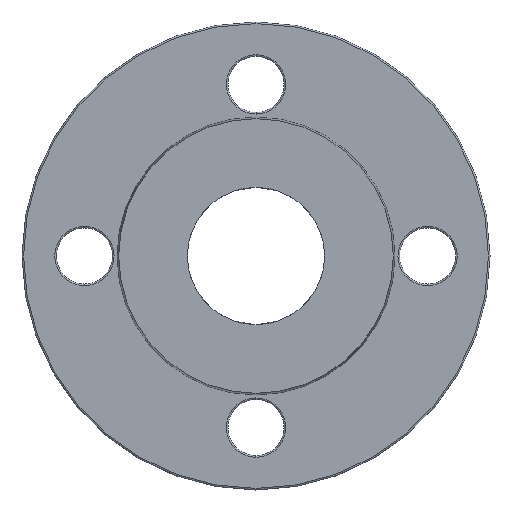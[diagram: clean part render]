
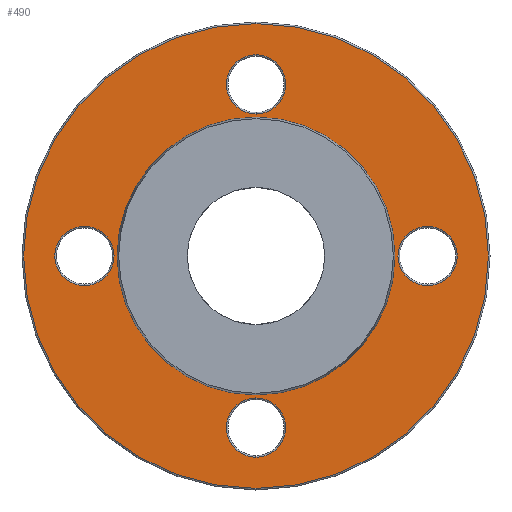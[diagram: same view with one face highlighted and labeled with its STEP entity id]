
A CAD part, left-side view. The second image highlights one B-rep face of the part: STEP entity #490.
In plain terms, the highlighted planar face has unit normal (-1, 0, 0).
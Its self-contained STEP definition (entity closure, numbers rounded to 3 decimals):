
#83 = EDGE_CURVE ( 'NONE', #995, #1002, #204, .T. ) ;
#97 = EDGE_CURVE ( 'NONE', #1326, #1329, #186, .T. ) ;
#184 = AXIS2_PLACEMENT_3D ( 'NONE', #907, #908, #909 ) ;
#186 = CIRCLE ( 'NONE', #184, 9.5 ) ;
#204 = CIRCLE ( 'NONE', #210, 74.5 ) ;
#210 = AXIS2_PLACEMENT_3D ( 'NONE', #1118, #1119, #1120 ) ;
#242 = EDGE_CURVE ( 'NONE', #991, #988, #743, .T. ) ;
#251 = EDGE_CURVE ( 'NONE', #1019, #1020, #724, .T. ) ;
#256 = EDGE_CURVE ( 'NONE', #1017, #340, #714, .T. ) ;
#259 = EDGE_CURVE ( 'NONE', #1013, #989, #710, .T. ) ;
#263 = EDGE_CURVE ( 'NONE', #989, #1013, #700, .T. ) ;
#264 = EDGE_CURVE ( 'NONE', #1002, #995, #698, .T. ) ;
#265 = EDGE_CURVE ( 'NONE', #1329, #1326, #696, .T. ) ;
#266 = EDGE_CURVE ( 'NONE', #988, #991, #694, .T. ) ;
#267 = EDGE_CURVE ( 'NONE', #1020, #1019, #692, .T. ) ;
#268 = EDGE_CURVE ( 'NONE', #340, #1017, #690, .T. ) ;
#340 = VERTEX_POINT ( 'NONE', #442 ) ;
#348 = ORIENTED_EDGE ( 'NONE', *, *, #264, .T. ) ;
#349 = ORIENTED_EDGE ( 'NONE', *, *, #83, .T. ) ;
#350 = ORIENTED_EDGE ( 'NONE', *, *, #97, .T. ) ;
#351 = ORIENTED_EDGE ( 'NONE', *, *, #265, .T. ) ;
#352 = ORIENTED_EDGE ( 'NONE', *, *, #242, .T. ) ;
#353 = ORIENTED_EDGE ( 'NONE', *, *, #266, .T. ) ;
#354 = ORIENTED_EDGE ( 'NONE', *, *, #251, .T. ) ;
#355 = ORIENTED_EDGE ( 'NONE', *, *, #267, .T. ) ;
#356 = ORIENTED_EDGE ( 'NONE', *, *, #256, .T. ) ;
#357 = ORIENTED_EDGE ( 'NONE', *, *, #268, .T. ) ;
#358 = ORIENTED_EDGE ( 'NONE', *, *, #263, .F. ) ;
#359 = ORIENTED_EDGE ( 'NONE', *, *, #259, .F. ) ;
#380 = CARTESIAN_POINT ( 'NONE',  ( 3., 0., 55. ) ) ;
#381 = DIRECTION ( 'NONE',  ( 1., 0., 0. ) ) ;
#382 = DIRECTION ( 'NONE',  ( 0., 0., -1. ) ) ;
#397 = CARTESIAN_POINT ( 'NONE',  ( 3., 55., 0. ) ) ;
#398 = DIRECTION ( 'NONE',  ( 1., 0., 0. ) ) ;
#399 = DIRECTION ( 'NONE',  ( 0., 0., -1. ) ) ;
#406 = CARTESIAN_POINT ( 'NONE',  ( 3., 0., 0. ) ) ;
#407 = DIRECTION ( 'NONE',  ( -1., 0., 0. ) ) ;
#408 = DIRECTION ( 'NONE',  ( 0., 0., 1. ) ) ;
#416 = CARTESIAN_POINT ( 'NONE',  ( 3., 0., 0. ) ) ;
#417 = DIRECTION ( 'NONE',  ( -1., 0., 0. ) ) ;
#418 = DIRECTION ( 'NONE',  ( 0., 0., 1. ) ) ;
#419 = CARTESIAN_POINT ( 'NONE',  ( 3., 0., 0. ) ) ;
#420 = DIRECTION ( 'NONE',  ( -1., 0., 0. ) ) ;
#421 = DIRECTION ( 'NONE',  ( 0., 0., -1. ) ) ;
#422 = CARTESIAN_POINT ( 'NONE',  ( 3., 0., -55. ) ) ;
#423 = DIRECTION ( 'NONE',  ( 1., 0., 0. ) ) ;
#424 = DIRECTION ( 'NONE',  ( 0., 0., -1. ) ) ;
#425 = CARTESIAN_POINT ( 'NONE',  ( 3., -55., 0. ) ) ;
#426 = DIRECTION ( 'NONE',  ( 1., 0., 0. ) ) ;
#427 = DIRECTION ( 'NONE',  ( 0., 0., -1. ) ) ;
#429 = CARTESIAN_POINT ( 'NONE',  ( 3., 0., 55. ) ) ;
#430 = DIRECTION ( 'NONE',  ( 1., 0., 0. ) ) ;
#431 = DIRECTION ( 'NONE',  ( 0., 0., -1. ) ) ;
#434 = CARTESIAN_POINT ( 'NONE',  ( 3., 55., 0. ) ) ;
#435 = DIRECTION ( 'NONE',  ( 1., 0., 0. ) ) ;
#436 = DIRECTION ( 'NONE',  ( 0., 0., -1. ) ) ;
#442 = CARTESIAN_POINT ( 'NONE',  ( 3., 55., 9.5 ) ) ;
#470 = FACE_BOUND ( 'NONE', #1055, .T. ) ;
#471 = FACE_OUTER_BOUND ( 'NONE', #1057, .T. ) ;
#472 = FACE_BOUND ( 'NONE', #1054, .T. ) ;
#473 = FACE_BOUND ( 'NONE', #1060, .T. ) ;
#475 = FACE_BOUND ( 'NONE', #1063, .T. ) ;
#476 = CARTESIAN_POINT ( 'NONE',  ( 3., 75., 0. ) ) ;
#477 = FACE_BOUND ( 'NONE', #1058, .T. ) ;
#478 = PLANE ( 'NONE',  #675 ) ;
#479 = DIRECTION ( 'NONE',  ( 1., 0., 0. ) ) ;
#480 = DIRECTION ( 'NONE',  ( 0., 0., -1. ) ) ;
#490 = ADVANCED_FACE ( 'NONE', ( #471, #473, #475, #477, #470, #472 ), #478, .F. ) ;
#647 = CARTESIAN_POINT ( 'NONE',  ( 3., -55., 0. ) ) ;
#648 = DIRECTION ( 'NONE',  ( 1., 0., 0. ) ) ;
#649 = DIRECTION ( 'NONE',  ( 0., 0., -1. ) ) ;
#675 = AXIS2_PLACEMENT_3D ( 'NONE', #476, #479, #480 ) ;
#687 = AXIS2_PLACEMENT_3D ( 'NONE', #434, #435, #436 ) ;
#689 = AXIS2_PLACEMENT_3D ( 'NONE', #429, #430, #431 ) ;
#690 = CIRCLE ( 'NONE', #687, 9.5 ) ;
#691 = AXIS2_PLACEMENT_3D ( 'NONE', #425, #426, #427 ) ;
#692 = CIRCLE ( 'NONE', #689, 9.5 ) ;
#693 = AXIS2_PLACEMENT_3D ( 'NONE', #422, #423, #424 ) ;
#694 = CIRCLE ( 'NONE', #691, 9.5 ) ;
#695 = AXIS2_PLACEMENT_3D ( 'NONE', #419, #420, #421 ) ;
#696 = CIRCLE ( 'NONE', #693, 9.5 ) ;
#697 = AXIS2_PLACEMENT_3D ( 'NONE', #416, #417, #418 ) ;
#698 = CIRCLE ( 'NONE', #695, 74.5 ) ;
#700 = CIRCLE ( 'NONE', #697, 44.529 ) ;
#704 = AXIS2_PLACEMENT_3D ( 'NONE', #406, #407, #408 ) ;
#709 = AXIS2_PLACEMENT_3D ( 'NONE', #397, #398, #399 ) ;
#710 = CIRCLE ( 'NONE', #704, 44.529 ) ;
#714 = CIRCLE ( 'NONE', #709, 9.5 ) ;
#719 = AXIS2_PLACEMENT_3D ( 'NONE', #380, #381, #382 ) ;
#724 = CIRCLE ( 'NONE', #719, 9.5 ) ;
#740 = AXIS2_PLACEMENT_3D ( 'NONE', #647, #648, #649 ) ;
#743 = CIRCLE ( 'NONE', #740, 9.5 ) ;
#907 = CARTESIAN_POINT ( 'NONE',  ( 3., 0., -55. ) ) ;
#908 = DIRECTION ( 'NONE',  ( 1., 0., 0. ) ) ;
#909 = DIRECTION ( 'NONE',  ( 0., 0., -1. ) ) ;
#988 = VERTEX_POINT ( 'NONE', #1234 ) ;
#989 = VERTEX_POINT ( 'NONE', #1228 ) ;
#991 = VERTEX_POINT ( 'NONE', #1235 ) ;
#995 = VERTEX_POINT ( 'NONE', #1237 ) ;
#1002 = VERTEX_POINT ( 'NONE', #1244 ) ;
#1013 = VERTEX_POINT ( 'NONE', #1255 ) ;
#1017 = VERTEX_POINT ( 'NONE', #1259 ) ;
#1019 = VERTEX_POINT ( 'NONE', #1261 ) ;
#1020 = VERTEX_POINT ( 'NONE', #1262 ) ;
#1054 = EDGE_LOOP ( 'NONE', ( #358, #359 ) ) ;
#1055 = EDGE_LOOP ( 'NONE', ( #356, #357 ) ) ;
#1057 = EDGE_LOOP ( 'NONE', ( #348, #349 ) ) ;
#1058 = EDGE_LOOP ( 'NONE', ( #354, #355 ) ) ;
#1060 = EDGE_LOOP ( 'NONE', ( #350, #351 ) ) ;
#1063 = EDGE_LOOP ( 'NONE', ( #352, #353 ) ) ;
#1118 = CARTESIAN_POINT ( 'NONE',  ( 3., 0., 0. ) ) ;
#1119 = DIRECTION ( 'NONE',  ( -1., 0., 0. ) ) ;
#1120 = DIRECTION ( 'NONE',  ( 0., 0., -1. ) ) ;
#1228 = CARTESIAN_POINT ( 'NONE',  ( 3., 0., -44.529 ) ) ;
#1234 = CARTESIAN_POINT ( 'NONE',  ( 3., -55., 9.5 ) ) ;
#1235 = CARTESIAN_POINT ( 'NONE',  ( 3., -55., -9.5 ) ) ;
#1237 = CARTESIAN_POINT ( 'NONE',  ( 3., 0., 74.5 ) ) ;
#1244 = CARTESIAN_POINT ( 'NONE',  ( 3., 0., -74.5 ) ) ;
#1255 = CARTESIAN_POINT ( 'NONE',  ( 3., 0., 44.529 ) ) ;
#1259 = CARTESIAN_POINT ( 'NONE',  ( 3., 55., -9.5 ) ) ;
#1261 = CARTESIAN_POINT ( 'NONE',  ( 3., 0., 45.5 ) ) ;
#1262 = CARTESIAN_POINT ( 'NONE',  ( 3., 0., 64.5 ) ) ;
#1273 = CARTESIAN_POINT ( 'NONE',  ( 3., 0., -64.5 ) ) ;
#1276 = CARTESIAN_POINT ( 'NONE',  ( 3., 0., -45.5 ) ) ;
#1326 = VERTEX_POINT ( 'NONE', #1273 ) ;
#1329 = VERTEX_POINT ( 'NONE', #1276 ) ;
